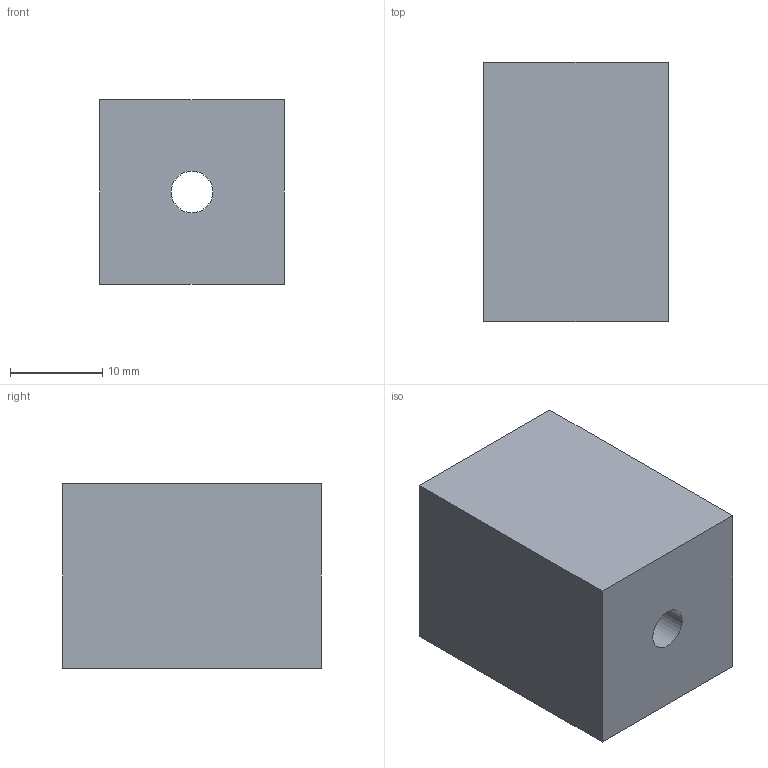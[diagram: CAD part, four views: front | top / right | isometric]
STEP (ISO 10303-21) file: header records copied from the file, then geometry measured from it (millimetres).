
FILE_DESCRIPTION(('Open CASCADE Model'),'2;1');
FILE_NAME('Open CASCADE Shape Model','2026-11-14T16:02:42',('Author'),( 'Open CASCADE'),'Open CASCADE STEP processor 7.9','Open CASCADE 7.9' ,'Unknown');
FILE_SCHEMA(('AUTOMOTIVE_DESIGN { 1 0 10303 214 1 1 1 1 }'));
Length unit declared in the file: millimetre
Products named in the file (1): Open CASCADE STEP translator 7.9 250
Bounding box: 20 x 28 x 20 mm (x, y, z)
Volume: 10754.7 mm3; surface area: 3404 mm2
Topology: 1 solids, 1 shells, 7 faces, 15 edges, 10 vertices
Faces by surface type: plane 6, cylinder 1
Full cylindrical faces by diameter (mm): 4.5 x1
Entity records: 400 total; most frequent: CARTESIAN_POINT 63, DIRECTION 63, LINE 41, VECTOR 41, ORIENTED_EDGE 30, PCURVE 30, DEFINITIONAL_REPRESENTATION 30, EDGE_CURVE 15
